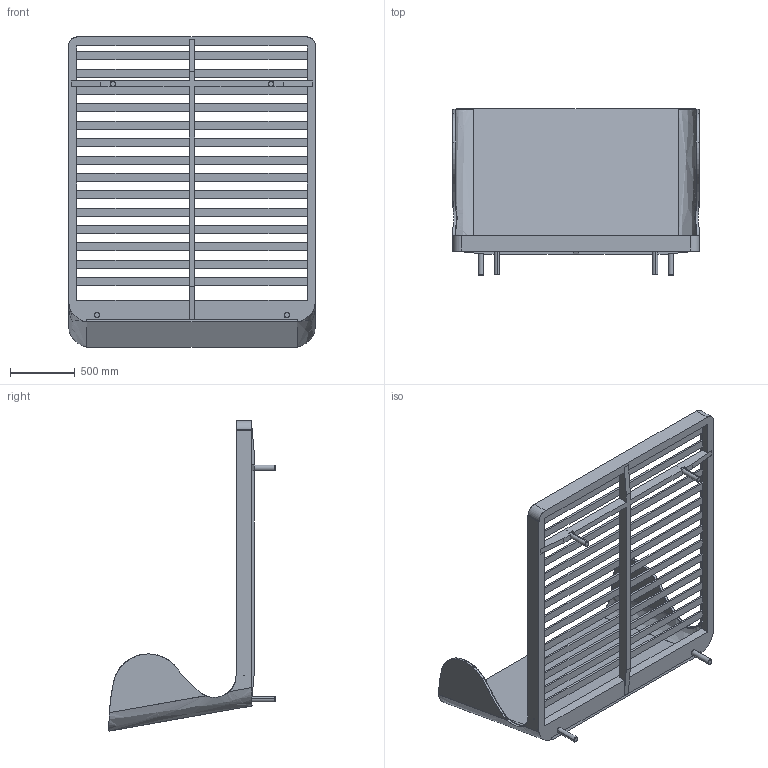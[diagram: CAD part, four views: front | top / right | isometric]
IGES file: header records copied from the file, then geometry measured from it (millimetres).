
Start section: SolidWorks IGES file using analytic representation for surfaces
Global section: file name: C:\Users\David.BDLE\Desktop\265AC suite bed_version h_2014-05-29\265AC Suite Bed_3D IGS.IGS; native system: SolidWorks 2016; preprocessor: SolidWorks 2016; author: David; date: 210616.120144; units: millimetre
Bounding box: 1905 x 1283.51 x 2393.51 mm (x, y, z)
Surface area: 12976368.4 mm2 (no closed solid volume)
Topology: 0 solids, 0 shells, 291 faces, 3623 edges, 3623 vertices
Faces by surface type: bspline 220, revolution 71
